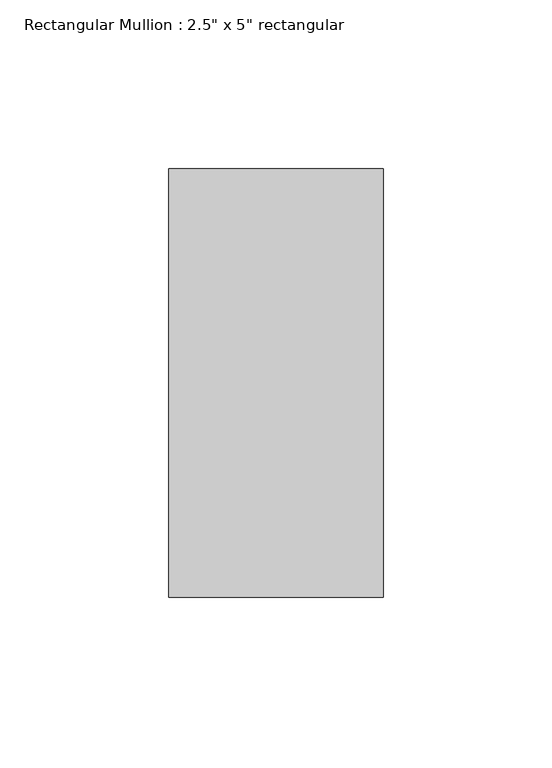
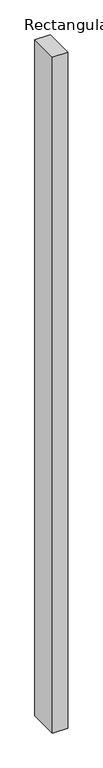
"""IFC4 building model written with IfcOpenShell, lengths in millimetres: member geometry."""

from ifc_helpers import new_model, si_unit, frame, origin, place, context, project, spatial, polyline, outline, extrude, source, transform, mapped, element, save


def member_8cef0660(model_context):
    return source(origin(), model_context, "Body", "SweptSolid", [
        extrude(outline(polyline([(31.75, 63.5), (31.75, -63.5), (-31.75, -63.5), (-31.75, 63.5), (31.75, 63.5)])), frame((0.0, 0.0, -2984.5), z_axis=(0.0, 0.0, 1.0), x_axis=(1.0, 0.0, 0.0)), (0.0, 0.0, 1.0), 2984.5),
    ])


if __name__ == "__main__":
    model = new_model("IFC4")
    model_context = context("Model", 3, world=origin())
    ifc_project = project(units=[si_unit("LENGTHUNIT", "METRE", prefix="MILLI")], contexts=[model_context])
    site = spatial("IfcSite", under=ifc_project)
    building = spatial("IfcBuilding", under=site)
    placement = place(None, origin())
    member_shape = member_8cef0660(model_context)
    element("IfcMember", 1, ObjectType="Rectangular Mullion : 2.5\" x 5\" rectangular", at=placement, inside=building, context=model_context, shape_type="MappedRepresentation", body=[
        mapped(member_shape, transform((0.0, 0.0, 0.0), x_axis=(1.0, 0.0, 0.0), y_axis=(0.0, 1.0, 0.0), z_axis=(0.0, 0.0, 1.0))),
    ])
    save(model, "model.ifc")
